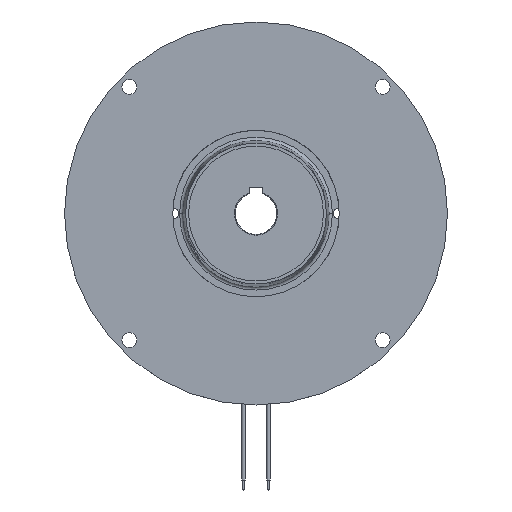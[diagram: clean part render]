
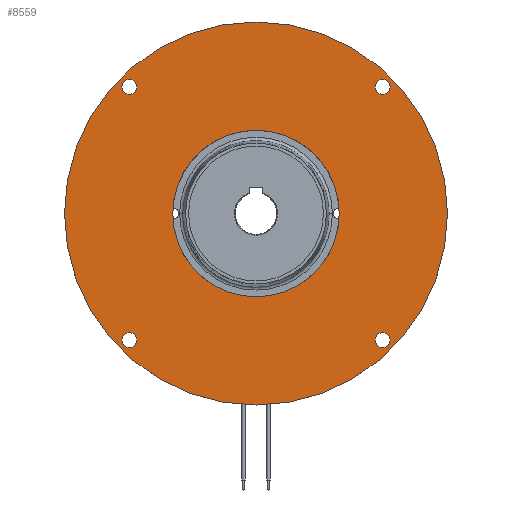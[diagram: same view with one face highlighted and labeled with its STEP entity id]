
A CAD part, top view. The second image highlights one B-rep face of the part: STEP entity #8559.
In plain terms, the highlighted planar face has unit normal (0, 0, 1).
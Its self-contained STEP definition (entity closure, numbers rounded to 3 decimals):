
#55 = ORIENTED_EDGE ( 'NONE', *, *, #7157, .T. ) ;
#113 = DIRECTION ( 'NONE',  ( 0., 0., -1. ) ) ;
#190 = CARTESIAN_POINT ( 'NONE',  ( -80.514, 76.014, 0. ) ) ;
#244 = EDGE_LOOP ( 'NONE', ( #55, #3071 ) ) ;
#408 = DIRECTION ( 'NONE',  ( 0., 0., -1. ) ) ;
#434 = ORIENTED_EDGE ( 'NONE', *, *, #2225, .F. ) ;
#476 = CARTESIAN_POINT ( 'NONE',  ( 76.014, 76.014, 0. ) ) ;
#534 = VERTEX_POINT ( 'NONE', #4347 ) ;
#592 = EDGE_CURVE ( 'NONE', #2213, #5649, #3272, .T. ) ;
#773 = DIRECTION ( 'NONE',  ( -1., 0., 0. ) ) ;
#857 = VERTEX_POINT ( 'NONE', #5447 ) ;
#893 = CIRCLE ( 'NONE', #6041, 50. ) ;
#960 = DIRECTION ( 'NONE',  ( -1., 0., 0. ) ) ;
#1167 = EDGE_CURVE ( 'NONE', #2572, #2196, #3258, .T. ) ;
#1373 = FACE_BOUND ( 'NONE', #3547, .T. ) ;
#1442 = AXIS2_PLACEMENT_3D ( 'NONE', #8823, #1615, #773 ) ;
#1454 = AXIS2_PLACEMENT_3D ( 'NONE', #5126, #113, #960 ) ;
#1486 = CIRCLE ( 'NONE', #4701, 4.5 ) ;
#1615 = DIRECTION ( 'NONE',  ( 0., 0., -1. ) ) ;
#1628 = CIRCLE ( 'NONE', #8475, 115. ) ;
#1674 = DIRECTION ( 'NONE',  ( -1., 0., 0. ) ) ;
#1728 = AXIS2_PLACEMENT_3D ( 'NONE', #6207, #2578, #5508 ) ;
#1785 = VERTEX_POINT ( 'NONE', #6422 ) ;
#1857 = AXIS2_PLACEMENT_3D ( 'NONE', #476, #4132, #7851 ) ;
#1935 = CARTESIAN_POINT ( 'NONE',  ( 0., 115., 0. ) ) ;
#1978 = PLANE ( 'NONE',  #8051 ) ;
#2079 = DIRECTION ( 'NONE',  ( 0., 0., -1. ) ) ;
#2196 = VERTEX_POINT ( 'NONE', #190 ) ;
#2213 = VERTEX_POINT ( 'NONE', #6702 ) ;
#2225 = EDGE_CURVE ( 'NONE', #7631, #8283, #5593, .T. ) ;
#2262 = DIRECTION ( 'NONE',  ( -1., 0., 0. ) ) ;
#2269 = CIRCLE ( 'NONE', #4879, 4.5 ) ;
#2302 = DIRECTION ( 'NONE',  ( -1., 0., 0. ) ) ;
#2407 = EDGE_CURVE ( 'NONE', #8283, #7631, #1628, .T. ) ;
#2446 = CARTESIAN_POINT ( 'NONE',  ( 0., 0., 0. ) ) ;
#2572 = VERTEX_POINT ( 'NONE', #9301 ) ;
#2578 = DIRECTION ( 'NONE',  ( 0., 0., -1. ) ) ;
#2633 = ORIENTED_EDGE ( 'NONE', *, *, #592, .T. ) ;
#2636 = EDGE_LOOP ( 'NONE', ( #4361, #3680 ) ) ;
#2667 = EDGE_CURVE ( 'NONE', #4098, #857, #8764, .T. ) ;
#2823 = AXIS2_PLACEMENT_3D ( 'NONE', #6281, #5371, #1674 ) ;
#2825 = DIRECTION ( 'NONE',  ( 0., 0., -1. ) ) ;
#2969 = EDGE_LOOP ( 'NONE', ( #434, #5489 ) ) ;
#3042 = CARTESIAN_POINT ( 'NONE',  ( 115., 0., 0. ) ) ;
#3071 = ORIENTED_EDGE ( 'NONE', *, *, #5877, .T. ) ;
#3237 = VERTEX_POINT ( 'NONE', #9136 ) ;
#3258 = CIRCLE ( 'NONE', #8126, 4.5 ) ;
#3272 = CIRCLE ( 'NONE', #1454, 4.5 ) ;
#3282 = EDGE_CURVE ( 'NONE', #857, #4098, #4451, .T. ) ;
#3512 = FACE_BOUND ( 'NONE', #2636, .T. ) ;
#3547 = EDGE_LOOP ( 'NONE', ( #4130, #2633 ) ) ;
#3608 = DIRECTION ( 'NONE',  ( 0., 0., -1. ) ) ;
#3680 = ORIENTED_EDGE ( 'NONE', *, *, #7688, .T. ) ;
#3960 = CARTESIAN_POINT ( 'NONE',  ( -71.514, -76.014, 0. ) ) ;
#4098 = VERTEX_POINT ( 'NONE', #8448 ) ;
#4130 = ORIENTED_EDGE ( 'NONE', *, *, #8295, .T. ) ;
#4132 = DIRECTION ( 'NONE',  ( 0., 0., -1. ) ) ;
#4267 = EDGE_LOOP ( 'NONE', ( #6553, #5116 ) ) ;
#4347 = CARTESIAN_POINT ( 'NONE',  ( 50., 0., 0. ) ) ;
#4361 = ORIENTED_EDGE ( 'NONE', *, *, #5477, .T. ) ;
#4384 = DIRECTION ( 'NONE',  ( -1., 0., 0. ) ) ;
#4451 = CIRCLE ( 'NONE', #1857, 4.5 ) ;
#4567 = CARTESIAN_POINT ( 'NONE',  ( -76.014, 76.014, 0. ) ) ;
#4638 = DIRECTION ( 'NONE',  ( 0., 0., -1. ) ) ;
#4701 = AXIS2_PLACEMENT_3D ( 'NONE', #9378, #3608, #6528 ) ;
#4879 = AXIS2_PLACEMENT_3D ( 'NONE', #4567, #7457, #8936 ) ;
#5116 = ORIENTED_EDGE ( 'NONE', *, *, #1167, .T. ) ;
#5126 = CARTESIAN_POINT ( 'NONE',  ( 76.014, -76.014, 0. ) ) ;
#5141 = EDGE_LOOP ( 'NONE', ( #7734, #5181 ) ) ;
#5181 = ORIENTED_EDGE ( 'NONE', *, *, #2667, .T. ) ;
#5212 = CARTESIAN_POINT ( 'NONE',  ( 0., 0., 0. ) ) ;
#5317 = DIRECTION ( 'NONE',  ( -1., 0., 0. ) ) ;
#5371 = DIRECTION ( 'NONE',  ( 0., 0., -1. ) ) ;
#5447 = CARTESIAN_POINT ( 'NONE',  ( 71.514, 76.014, 0. ) ) ;
#5471 = DIRECTION ( 'NONE',  ( -1., 0., 0. ) ) ;
#5477 = EDGE_CURVE ( 'NONE', #1785, #534, #893, .T. ) ;
#5489 = ORIENTED_EDGE ( 'NONE', *, *, #2407, .F. ) ;
#5508 = DIRECTION ( 'NONE',  ( -1., 0., 0. ) ) ;
#5593 = CIRCLE ( 'NONE', #7417, 115. ) ;
#5649 = VERTEX_POINT ( 'NONE', #8529 ) ;
#5719 = DIRECTION ( 'NONE',  ( 0., 0., -1. ) ) ;
#5849 = CARTESIAN_POINT ( 'NONE',  ( 0., 0., 0. ) ) ;
#5852 = CIRCLE ( 'NONE', #1728, 4.5 ) ;
#5877 = EDGE_CURVE ( 'NONE', #6063, #3237, #1486, .T. ) ;
#5923 = CARTESIAN_POINT ( 'NONE',  ( 0., 0., 0. ) ) ;
#5987 = CIRCLE ( 'NONE', #8123, 50. ) ;
#6041 = AXIS2_PLACEMENT_3D ( 'NONE', #5923, #4638, #5317 ) ;
#6063 = VERTEX_POINT ( 'NONE', #3960 ) ;
#6207 = CARTESIAN_POINT ( 'NONE',  ( -76.014, -76.014, 0. ) ) ;
#6281 = CARTESIAN_POINT ( 'NONE',  ( 76.014, 76.014, 0. ) ) ;
#6377 = FACE_BOUND ( 'NONE', #244, .T. ) ;
#6422 = CARTESIAN_POINT ( 'NONE',  ( -50., 0., 0. ) ) ;
#6528 = DIRECTION ( 'NONE',  ( -1., 0., 0. ) ) ;
#6553 = ORIENTED_EDGE ( 'NONE', *, *, #9192, .T. ) ;
#6702 = CARTESIAN_POINT ( 'NONE',  ( 80.514, -76.014, 0. ) ) ;
#7137 = FACE_BOUND ( 'NONE', #4267, .T. ) ;
#7157 = EDGE_CURVE ( 'NONE', #3237, #6063, #5852, .T. ) ;
#7415 = DIRECTION ( 'NONE',  ( 0., 0., -1. ) ) ;
#7417 = AXIS2_PLACEMENT_3D ( 'NONE', #5849, #7415, #2262 ) ;
#7457 = DIRECTION ( 'NONE',  ( 0., 0., -1. ) ) ;
#7631 = VERTEX_POINT ( 'NONE', #9281 ) ;
#7688 = EDGE_CURVE ( 'NONE', #534, #1785, #5987, .T. ) ;
#7734 = ORIENTED_EDGE ( 'NONE', *, *, #3282, .T. ) ;
#7758 = DIRECTION ( 'NONE',  ( -1., 0., 0. ) ) ;
#7851 = DIRECTION ( 'NONE',  ( -1., 0., 0. ) ) ;
#8051 = AXIS2_PLACEMENT_3D ( 'NONE', #1935, #2079, #7758 ) ;
#8123 = AXIS2_PLACEMENT_3D ( 'NONE', #5212, #5719, #4384 ) ;
#8126 = AXIS2_PLACEMENT_3D ( 'NONE', #8744, #2825, #2302 ) ;
#8283 = VERTEX_POINT ( 'NONE', #3042 ) ;
#8295 = EDGE_CURVE ( 'NONE', #5649, #2213, #8748, .T. ) ;
#8448 = CARTESIAN_POINT ( 'NONE',  ( 80.514, 76.014, 0. ) ) ;
#8475 = AXIS2_PLACEMENT_3D ( 'NONE', #2446, #408, #5471 ) ;
#8480 = FACE_OUTER_BOUND ( 'NONE', #2969, .T. ) ;
#8529 = CARTESIAN_POINT ( 'NONE',  ( 71.514, -76.014, 0. ) ) ;
#8559 = ADVANCED_FACE ( 'NONE', ( #9234, #1373, #6377, #7137, #8480, #3512 ), #1978, .F. ) ;
#8744 = CARTESIAN_POINT ( 'NONE',  ( -76.014, 76.014, 0. ) ) ;
#8748 = CIRCLE ( 'NONE', #1442, 4.5 ) ;
#8764 = CIRCLE ( 'NONE', #2823, 4.5 ) ;
#8823 = CARTESIAN_POINT ( 'NONE',  ( 76.014, -76.014, 0. ) ) ;
#8936 = DIRECTION ( 'NONE',  ( -1., 0., 0. ) ) ;
#9136 = CARTESIAN_POINT ( 'NONE',  ( -80.514, -76.014, 0. ) ) ;
#9192 = EDGE_CURVE ( 'NONE', #2196, #2572, #2269, .T. ) ;
#9234 = FACE_BOUND ( 'NONE', #5141, .T. ) ;
#9281 = CARTESIAN_POINT ( 'NONE',  ( -115., 0., 0. ) ) ;
#9301 = CARTESIAN_POINT ( 'NONE',  ( -71.514, 76.014, 0. ) ) ;
#9378 = CARTESIAN_POINT ( 'NONE',  ( -76.014, -76.014, 0. ) ) ;
